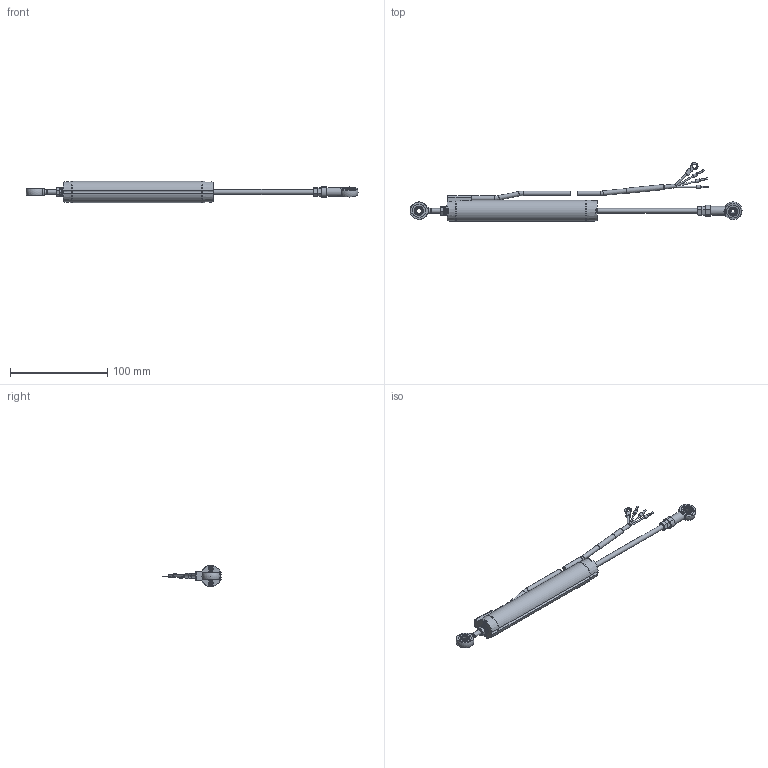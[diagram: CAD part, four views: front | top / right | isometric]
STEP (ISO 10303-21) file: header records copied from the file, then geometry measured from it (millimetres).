
FILE_DESCRIPTION(/* description */ (''),/* implementation_level */ '2;1');
FILE_NAME(/* name */ 'D:\LPPS-22 CAD Drawings\3D\LPPS-22-100\LPPS-22-100.stp',/* time_stamp */ '2021-10-22T12:51:14-04:00',/* author */ ('Justin'),/* organization */ (''),/* preprocessor_version */ 'ST-DEVELOPER v18.1',/* originating_system */ 'Autodesk Inventor 2022',/* authorisation */ '');
FILE_SCHEMA (('AUTOMOTIVE_DESIGN { 1 0 10303 214 3 1 1 }'));
Products named in the file (4): LPPS-22-100 SW; LPPS-22-100_Cable Simplify; LPPS-22-100_Housing Simplify; LPPS-22-100_Shaft Simplify
Assembly tree (3 placements, depth 2):
  LPPS-22-100 SW
    LPPS-22-100_Cable Simplify
    LPPS-22-100_Housing Simplify
    LPPS-22-100_Shaft Simplify
Bounding box: 340.58 x 60.43 x 21.96 mm (x, y, z)
Volume: 42265.1 mm3; surface area: 38599.2 mm2
Topology: 30 solids, 30 shells, 757 faces, 2739 edges, 2048 vertices
Faces by surface type: cylinder 349, plane 202, cone 142, bspline 28, torus 22, sphere 14
Full cylindrical faces by diameter (mm): 1.27 x3, 1.48 x96, 1.575 x2, 2 x92, 2.286 x5, 3.175 x5, 3.81 x1, 3.881 x1, 4 x4, 4.134 x1, 4.191 x1, 4.342 x12, 4.572 x5, 4.826 x3, 4.851 x1, 4.953 x1, 5 x15, 5.004 x2, 5.08 x1, 5.207 x1, 5.3 x1, 6.35 x2, 9.144 x1, 10 x1, 12.675 x4, 12.7 x1, 15.875 x2, 17.78 x1
Entity records: 45067 total; most frequent: CARTESIAN_POINT 23734, ORIENTED_EDGE 5444, DIRECTION 3368, EDGE_CURVE 2722, VERTEX_POINT 2048, AXIS2_PLACEMENT_3D 1373, EDGE_LOOP 826, STYLED_ITEM 787
